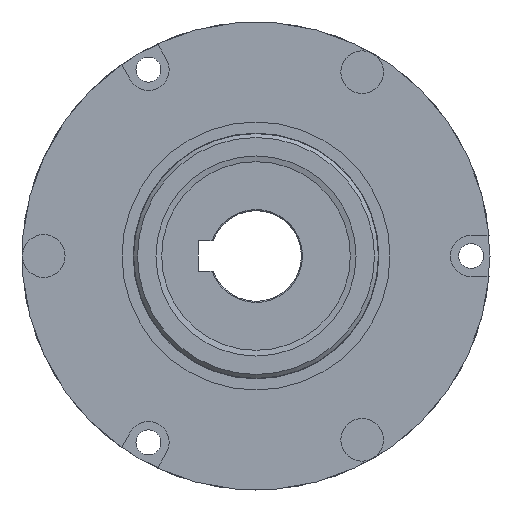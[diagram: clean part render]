
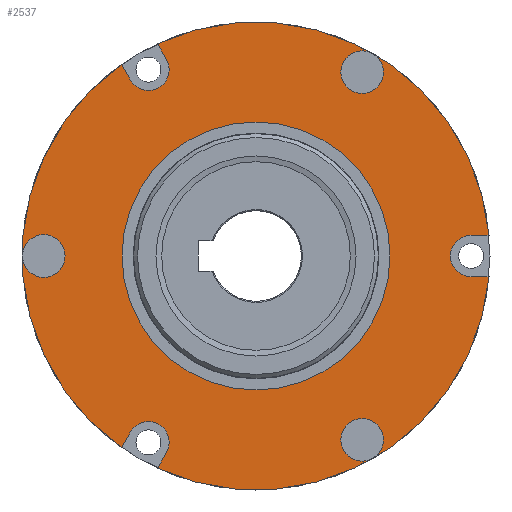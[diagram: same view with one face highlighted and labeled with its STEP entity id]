
A CAD part, left-side view. The second image highlights one B-rep face of the part: STEP entity #2537.
In plain terms, the highlighted planar face has unit normal (-1, 0, 0).
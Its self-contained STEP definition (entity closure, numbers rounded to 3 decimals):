
#1 = VERTEX_POINT ( 'NONE', #931 ) ;
#34 = ORIENTED_EDGE ( 'NONE', *, *, #462, .T. ) ;
#50 = VECTOR ( 'NONE', #1223, 1000. ) ;
#52 = CIRCLE ( 'NONE', #2684, 5.5 ) ;
#61 = FACE_BOUND ( 'NONE', #1587, .T. ) ;
#62 = EDGE_CURVE ( 'NONE', #1, #1, #1983, .T. ) ;
#123 = FACE_BOUND ( 'NONE', #1385, .T. ) ;
#159 = EDGE_LOOP ( 'NONE', ( #2232, #1312, #1970, #659, #1328, #34, #232, #1387, #2540, #2346, #1745, #453 ) ) ;
#188 = EDGE_CURVE ( 'NONE', #1556, #559, #2636, .T. ) ;
#208 = EDGE_CURVE ( 'NONE', #2334, #2334, #2548, .T. ) ;
#224 = DIRECTION ( 'NONE',  ( 0., -1., 0. ) ) ;
#226 = DIRECTION ( 'NONE',  ( 0., 0., 1. ) ) ;
#232 = ORIENTED_EDGE ( 'NONE', *, *, #623, .T. ) ;
#239 = CARTESIAN_POINT ( 'NONE',  ( -19.15, -4.763, -2.75 ) ) ;
#247 = LINE ( 'NONE', #1936, #1159 ) ;
#318 = VERTEX_POINT ( 'NONE', #2249 ) ;
#406 = CARTESIAN_POINT ( 'NONE',  ( -19.15, 0., -5.5 ) ) ;
#408 = CIRCLE ( 'NONE', #1200, 5.5 ) ;
#413 = DIRECTION ( 'NONE',  ( 0., 0.866, 0.5 ) ) ;
#431 = EDGE_CURVE ( 'NONE', #1449, #1032, #1269, .T. ) ;
#433 = EDGE_CURVE ( 'NONE', #1997, #1997, #408, .T. ) ;
#436 = CARTESIAN_POINT ( 'NONE',  ( -19.15, -61.756, 5.5 ) ) ;
#444 = DIRECTION ( 'NONE',  ( -1., 0., 0. ) ) ;
#445 = DIRECTION ( 'NONE',  ( -1., 0., 0. ) ) ;
#453 = ORIENTED_EDGE ( 'NONE', *, *, #1632, .F. ) ;
#462 = EDGE_CURVE ( 'NONE', #2079, #2274, #2092, .T. ) ;
#487 = VERTEX_POINT ( 'NONE', #1890 ) ;
#501 = CARTESIAN_POINT ( 'NONE',  ( -19.15, -32.888, -45.964 ) ) ;
#512 = ORIENTED_EDGE ( 'NONE', *, *, #62, .F. ) ;
#537 = CARTESIAN_POINT ( 'NONE',  ( -19.15, 26.115, 56.232 ) ) ;
#559 = VERTEX_POINT ( 'NONE', #1907 ) ;
#599 = EDGE_CURVE ( 'NONE', #2707, #1143, #2151, .T. ) ;
#607 = CARTESIAN_POINT ( 'NONE',  ( -19.15, 35.641, 50.732 ) ) ;
#608 = CARTESIAN_POINT ( 'NONE',  ( -19.15, 0., 0. ) ) ;
#618 = CARTESIAN_POINT ( 'NONE',  ( -19.15, 28.5, -49.363 ) ) ;
#623 = EDGE_CURVE ( 'NONE', #2274, #487, #666, .T. ) ;
#659 = ORIENTED_EDGE ( 'NONE', *, *, #1093, .F. ) ;
#661 = EDGE_LOOP ( 'NONE', ( #929 ) ) ;
#666 = LINE ( 'NONE', #406, #2485 ) ;
#679 = FACE_BOUND ( 'NONE', #661, .T. ) ;
#707 = CARTESIAN_POINT ( 'NONE',  ( -19.15, -4.763, 2.75 ) ) ;
#728 = DIRECTION ( 'NONE',  ( -1., 0., 0. ) ) ;
#745 = EDGE_CURVE ( 'NONE', #859, #318, #247, .T. ) ;
#755 = DIRECTION ( 'NONE',  ( 1., 0., 0. ) ) ;
#778 = EDGE_CURVE ( 'NONE', #2707, #487, #1751, .T. ) ;
#815 = VERTEX_POINT ( 'NONE', #2265 ) ;
#818 = CARTESIAN_POINT ( 'NONE',  ( -19.15, -28.125, 48.714 ) ) ;
#836 = AXIS2_PLACEMENT_3D ( 'NONE', #2020, #755, #971 ) ;
#859 = VERTEX_POINT ( 'NONE', #1291 ) ;
#868 = DIRECTION ( 'NONE',  ( 0., 0., 1. ) ) ;
#907 = VECTOR ( 'NONE', #224, 1000. ) ;
#925 = CARTESIAN_POINT ( 'NONE',  ( -19.15, 33.263, 46.613 ) ) ;
#929 = ORIENTED_EDGE ( 'NONE', *, *, #2272, .T. ) ;
#931 = CARTESIAN_POINT ( 'NONE',  ( -19.15, 0., 35.5 ) ) ;
#950 = DIRECTION ( 'NONE',  ( 0., -0.866, 0.5 ) ) ;
#971 = DIRECTION ( 'NONE',  ( 0., 0., -1. ) ) ;
#1016 = DIRECTION ( 'NONE',  ( 1., 0., 0. ) ) ;
#1020 = CARTESIAN_POINT ( 'NONE',  ( -19.15, 0., 0. ) ) ;
#1021 = EDGE_LOOP ( 'NONE', ( #2367 ) ) ;
#1025 = CARTESIAN_POINT ( 'NONE',  ( -19.15, 4.763, -2.75 ) ) ;
#1032 = VERTEX_POINT ( 'NONE', #607 ) ;
#1054 = DIRECTION ( 'NONE',  ( 1., 0., 0. ) ) ;
#1057 = AXIS2_PLACEMENT_3D ( 'NONE', #2482, #2688, #1633 ) ;
#1093 = EDGE_CURVE ( 'NONE', #1514, #318, #52, .T. ) ;
#1101 = DIRECTION ( 'NONE',  ( 0., -0.5, 0.866 ) ) ;
#1138 = EDGE_CURVE ( 'NONE', #1143, #1556, #1363, .T. ) ;
#1139 = CARTESIAN_POINT ( 'NONE',  ( -19.15, -57., 5.5 ) ) ;
#1143 = VERTEX_POINT ( 'NONE', #436 ) ;
#1159 = VECTOR ( 'NONE', #1101, 1000. ) ;
#1200 = AXIS2_PLACEMENT_3D ( 'NONE', #818, #1016, #413 ) ;
#1223 = DIRECTION ( 'NONE',  ( 0., 0.5, 0.866 ) ) ;
#1269 = LINE ( 'NONE', #1025, #50 ) ;
#1279 = DIRECTION ( 'NONE',  ( 0., 0., 1. ) ) ;
#1291 = CARTESIAN_POINT ( 'NONE',  ( -19.15, 35.641, -50.732 ) ) ;
#1310 = EDGE_CURVE ( 'NONE', #1514, #2079, #2384, .T. ) ;
#1312 = ORIENTED_EDGE ( 'NONE', *, *, #1934, .T. ) ;
#1328 = ORIENTED_EDGE ( 'NONE', *, *, #1310, .T. ) ;
#1331 = DIRECTION ( 'NONE',  ( 0., 0.5, -0.866 ) ) ;
#1356 = DIRECTION ( 'NONE',  ( 0., 0., 1. ) ) ;
#1363 = CIRCLE ( 'NONE', #1728, 62. ) ;
#1385 = EDGE_LOOP ( 'NONE', ( #1709 ) ) ;
#1387 = ORIENTED_EDGE ( 'NONE', *, *, #778, .F. ) ;
#1449 = VERTEX_POINT ( 'NONE', #925 ) ;
#1474 = AXIS2_PLACEMENT_3D ( 'NONE', #1562, #728, #1356 ) ;
#1483 = CARTESIAN_POINT ( 'NONE',  ( -19.15, -57., 0. ) ) ;
#1514 = VERTEX_POINT ( 'NONE', #1552 ) ;
#1552 = CARTESIAN_POINT ( 'NONE',  ( -19.15, 23.737, -52.113 ) ) ;
#1556 = VERTEX_POINT ( 'NONE', #537 ) ;
#1562 = CARTESIAN_POINT ( 'NONE',  ( -19.15, 0., 0. ) ) ;
#1587 = EDGE_LOOP ( 'NONE', ( #512 ) ) ;
#1608 = AXIS2_PLACEMENT_3D ( 'NONE', #2347, #445, #1695 ) ;
#1632 = EDGE_CURVE ( 'NONE', #1449, #559, #2176, .T. ) ;
#1633 = DIRECTION ( 'NONE',  ( 0., 0., 1. ) ) ;
#1692 = DIRECTION ( 'NONE',  ( -1., 0., 0. ) ) ;
#1695 = DIRECTION ( 'NONE',  ( 0., 0., 1. ) ) ;
#1709 = ORIENTED_EDGE ( 'NONE', *, *, #208, .T. ) ;
#1721 = CARTESIAN_POINT ( 'NONE',  ( -19.15, 26.115, -56.232 ) ) ;
#1728 = AXIS2_PLACEMENT_3D ( 'NONE', #1898, #444, #868 ) ;
#1740 = DIRECTION ( 'NONE',  ( 0., -0.5, -0.866 ) ) ;
#1745 = ORIENTED_EDGE ( 'NONE', *, *, #188, .T. ) ;
#1751 = CIRCLE ( 'NONE', #2418, 5.5 ) ;
#1761 = AXIS2_PLACEMENT_3D ( 'NONE', #1020, #1054, #2722 ) ;
#1801 = CARTESIAN_POINT ( 'NONE',  ( -19.15, -61.756, -5.5 ) ) ;
#1871 = PLANE ( 'NONE',  #1761 ) ;
#1890 = CARTESIAN_POINT ( 'NONE',  ( -19.15, -57., -5.5 ) ) ;
#1898 = CARTESIAN_POINT ( 'NONE',  ( -19.15, 0., 0. ) ) ;
#1907 = CARTESIAN_POINT ( 'NONE',  ( -19.15, 23.737, 52.113 ) ) ;
#1934 = EDGE_CURVE ( 'NONE', #1032, #859, #2544, .T. ) ;
#1936 = CARTESIAN_POINT ( 'NONE',  ( -19.15, 4.763, 2.75 ) ) ;
#1970 = ORIENTED_EDGE ( 'NONE', *, *, #745, .T. ) ;
#1983 = CIRCLE ( 'NONE', #1474, 35.5 ) ;
#1997 = VERTEX_POINT ( 'NONE', #2203 ) ;
#2020 = CARTESIAN_POINT ( 'NONE',  ( -19.15, 56.25, 0. ) ) ;
#2079 = VERTEX_POINT ( 'NONE', #1721 ) ;
#2086 = VECTOR ( 'NONE', #1740, 1000. ) ;
#2092 = CIRCLE ( 'NONE', #2479, 62. ) ;
#2151 = LINE ( 'NONE', #2301, #907 ) ;
#2166 = FACE_BOUND ( 'NONE', #1021, .T. ) ;
#2176 = CIRCLE ( 'NONE', #1057, 5.5 ) ;
#2203 = CARTESIAN_POINT ( 'NONE',  ( -19.15, -23.362, 51.464 ) ) ;
#2212 = CARTESIAN_POINT ( 'NONE',  ( -19.15, -28.125, -48.714 ) ) ;
#2222 = DIRECTION ( 'NONE',  ( 1., 0., 0. ) ) ;
#2232 = ORIENTED_EDGE ( 'NONE', *, *, #431, .T. ) ;
#2249 = CARTESIAN_POINT ( 'NONE',  ( -19.15, 33.263, -46.613 ) ) ;
#2265 = CARTESIAN_POINT ( 'NONE',  ( -19.15, 56.25, -5.5 ) ) ;
#2272 = EDGE_CURVE ( 'NONE', #815, #815, #2305, .T. ) ;
#2274 = VERTEX_POINT ( 'NONE', #1801 ) ;
#2294 = DIRECTION ( 'NONE',  ( 0., 1., 0. ) ) ;
#2301 = CARTESIAN_POINT ( 'NONE',  ( -19.15, 0., 5.5 ) ) ;
#2305 = CIRCLE ( 'NONE', #836, 5.5 ) ;
#2311 = DIRECTION ( 'NONE',  ( -1., 0., 0. ) ) ;
#2323 = VECTOR ( 'NONE', #1331, 1000. ) ;
#2334 = VERTEX_POINT ( 'NONE', #501 ) ;
#2346 = ORIENTED_EDGE ( 'NONE', *, *, #1138, .T. ) ;
#2347 = CARTESIAN_POINT ( 'NONE',  ( -19.15, 0., 0. ) ) ;
#2367 = ORIENTED_EDGE ( 'NONE', *, *, #433, .T. ) ;
#2384 = LINE ( 'NONE', #239, #2323 ) ;
#2385 = AXIS2_PLACEMENT_3D ( 'NONE', #2212, #2222, #950 ) ;
#2418 = AXIS2_PLACEMENT_3D ( 'NONE', #1483, #1692, #226 ) ;
#2462 = FACE_OUTER_BOUND ( 'NONE', #159, .T. ) ;
#2479 = AXIS2_PLACEMENT_3D ( 'NONE', #608, #2517, #2727 ) ;
#2482 = CARTESIAN_POINT ( 'NONE',  ( -19.15, 28.5, 49.363 ) ) ;
#2485 = VECTOR ( 'NONE', #2294, 1000. ) ;
#2517 = DIRECTION ( 'NONE',  ( -1., 0., 0. ) ) ;
#2537 = ADVANCED_FACE ( 'NONE', ( #2166, #123, #679, #61, #2462 ), #1871, .F. ) ;
#2540 = ORIENTED_EDGE ( 'NONE', *, *, #599, .T. ) ;
#2544 = CIRCLE ( 'NONE', #1608, 62. ) ;
#2548 = CIRCLE ( 'NONE', #2385, 5.5 ) ;
#2636 = LINE ( 'NONE', #707, #2086 ) ;
#2684 = AXIS2_PLACEMENT_3D ( 'NONE', #618, #2311, #1279 ) ;
#2688 = DIRECTION ( 'NONE',  ( -1., 0., 0. ) ) ;
#2707 = VERTEX_POINT ( 'NONE', #1139 ) ;
#2722 = DIRECTION ( 'NONE',  ( 0., 0., -1. ) ) ;
#2727 = DIRECTION ( 'NONE',  ( 0., 0., 1. ) ) ;
